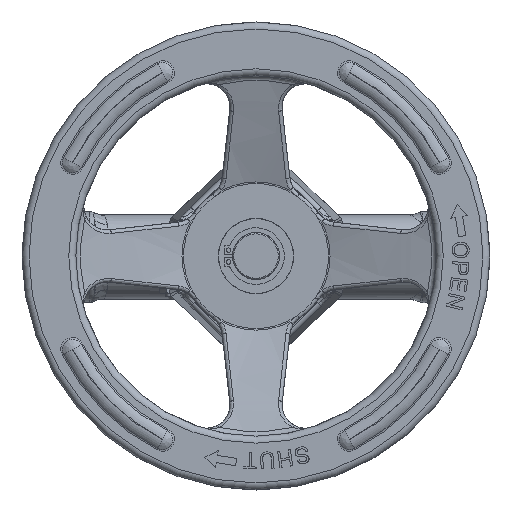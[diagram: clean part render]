
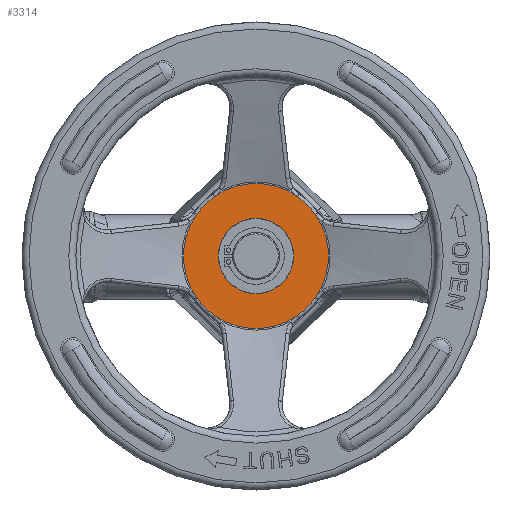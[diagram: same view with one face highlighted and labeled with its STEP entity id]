
A CAD part, top view. The second image highlights one B-rep face of the part: STEP entity #3314.
In plain terms, the highlighted planar face has unit normal (0, 0, 1).
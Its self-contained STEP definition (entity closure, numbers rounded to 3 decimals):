
#391=FACE_BOUND('',#5445,.T.);
#392=FACE_BOUND('',#5446,.T.);
#3314=ADVANCED_FACE('',(#391,#392),#3635,.T.);
#3635=PLANE('',#16360);
#5445=EDGE_LOOP('',(#10226));
#5446=EDGE_LOOP('',(#10227,#10228,#10229,#10230,#10231,#10232,#10233,#10234));
#6079=CIRCLE('',#16239,31.);
#6091=CIRCLE('',#16252,31.);
#6101=CIRCLE('',#16263,31.);
#6115=CIRCLE('',#16278,31.);
#6147=CIRCLE('',#16354,16.1);
#6148=CIRCLE('',#16356,31.);
#6149=CIRCLE('',#16357,31.);
#6150=CIRCLE('',#16358,31.);
#6151=CIRCLE('',#16359,31.);
#10226=ORIENTED_EDGE('',*,*,#14102,.T.);
#10227=ORIENTED_EDGE('',*,*,#13952,.F.);
#10228=ORIENTED_EDGE('',*,*,#14103,.F.);
#10229=ORIENTED_EDGE('',*,*,#13922,.F.);
#10230=ORIENTED_EDGE('',*,*,#14104,.F.);
#10231=ORIENTED_EDGE('',*,*,#13890,.F.);
#10232=ORIENTED_EDGE('',*,*,#14105,.F.);
#10233=ORIENTED_EDGE('',*,*,#13986,.F.);
#10234=ORIENTED_EDGE('',*,*,#14106,.F.);
#11801=VERTEX_POINT('',#33927);
#11804=VERTEX_POINT('',#33932);
#11823=VERTEX_POINT('',#34224);
#11826=VERTEX_POINT('',#34229);
#11846=VERTEX_POINT('',#34522);
#11847=VERTEX_POINT('',#34524);
#11867=VERTEX_POINT('',#34818);
#11870=VERTEX_POINT('',#34823);
#11936=VERTEX_POINT('',#35404);
#13890=EDGE_CURVE('',#11804,#11801,#6079,.T.);
#13922=EDGE_CURVE('',#11826,#11823,#6091,.T.);
#13952=EDGE_CURVE('',#11846,#11847,#6101,.T.);
#13986=EDGE_CURVE('',#11870,#11867,#6115,.T.);
#14102=EDGE_CURVE('',#11936,#11936,#6147,.T.);
#14103=EDGE_CURVE('',#11823,#11846,#6148,.T.);
#14104=EDGE_CURVE('',#11801,#11826,#6149,.T.);
#14105=EDGE_CURVE('',#11867,#11804,#6150,.T.);
#14106=EDGE_CURVE('',#11847,#11870,#6151,.T.);
#16239=AXIS2_PLACEMENT_3D('',#33933,#19462,#19463);
#16252=AXIS2_PLACEMENT_3D('',#34230,#19488,#19489);
#16263=AXIS2_PLACEMENT_3D('',#34523,#19510,#19511);
#16278=AXIS2_PLACEMENT_3D('',#34824,#19540,#19541);
#16354=AXIS2_PLACEMENT_3D('',#35403,#19724,#19725);
#16356=AXIS2_PLACEMENT_3D('',#35406,#19728,#19729);
#16357=AXIS2_PLACEMENT_3D('',#35407,#19730,#19731);
#16358=AXIS2_PLACEMENT_3D('',#35408,#19732,#19733);
#16359=AXIS2_PLACEMENT_3D('',#35409,#19734,#19735);
#16360=AXIS2_PLACEMENT_3D('',#35410,#19736,#19737);
#19462=DIRECTION('',(0.,0.,-1.));
#19463=DIRECTION('',(0.,1.,0.));
#19488=DIRECTION('',(0.,0.,-1.));
#19489=DIRECTION('',(0.,1.,0.));
#19510=DIRECTION('',(0.,0.,-1.));
#19511=DIRECTION('',(0.,1.,0.));
#19540=DIRECTION('',(0.,0.,-1.));
#19541=DIRECTION('',(0.,1.,0.));
#19724=DIRECTION('',(0.,0.,-1.));
#19725=DIRECTION('',(0.,1.,0.));
#19728=DIRECTION('',(0.,0.,-1.));
#19729=DIRECTION('',(0.,1.,0.));
#19730=DIRECTION('',(0.,0.,-1.));
#19731=DIRECTION('',(0.,1.,0.));
#19732=DIRECTION('',(0.,0.,-1.));
#19733=DIRECTION('',(0.,1.,0.));
#19734=DIRECTION('',(0.,0.,-1.));
#19735=DIRECTION('',(0.,1.,0.));
#19736=DIRECTION('',(0.,0.,1.));
#19737=DIRECTION('',(0.,-1.,0.));
#33927=CARTESIAN_POINT('',(-25.387,-17.79,246.));
#33932=CARTESIAN_POINT('',(-17.79,-25.387,246.));
#33933=CARTESIAN_POINT('',(0.,0.,
246.));
#34224=CARTESIAN_POINT('',(-17.79,25.387,246.));
#34229=CARTESIAN_POINT('',(-25.387,17.79,246.));
#34230=CARTESIAN_POINT('',(0.,0.,
246.));
#34522=CARTESIAN_POINT('',(17.79,25.387,246.));
#34523=CARTESIAN_POINT('',(0.,0.,
246.));
#34524=CARTESIAN_POINT('',(25.387,17.79,246.));
#34818=CARTESIAN_POINT('',(17.79,-25.387,246.));
#34823=CARTESIAN_POINT('',(25.387,-17.79,246.));
#34824=CARTESIAN_POINT('',(0.,0.,
246.));
#35403=CARTESIAN_POINT('',(0.,0.,
246.));
#35404=CARTESIAN_POINT('',(0.,16.1,246.));
#35406=CARTESIAN_POINT('',(0.,0.,
246.));
#35407=CARTESIAN_POINT('',(0.,0.,
246.));
#35408=CARTESIAN_POINT('',(0.,0.,
246.));
#35409=CARTESIAN_POINT('',(0.,0.,
246.));
#35410=CARTESIAN_POINT('',(-21.,0.,246.));
